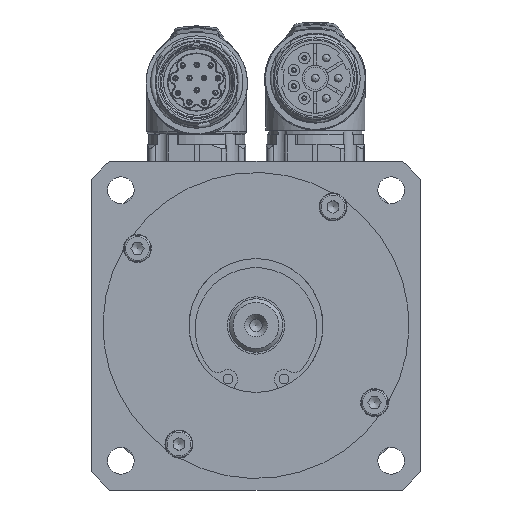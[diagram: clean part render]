
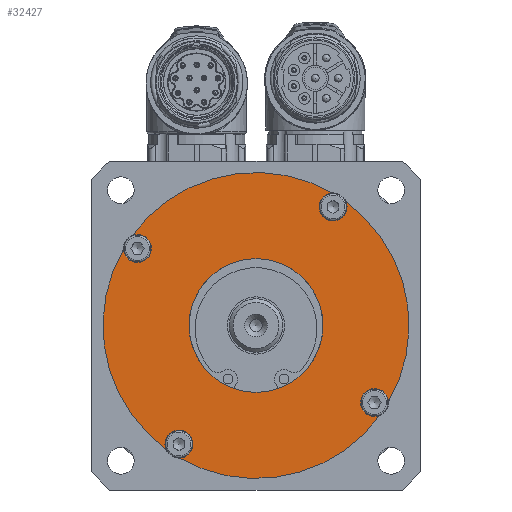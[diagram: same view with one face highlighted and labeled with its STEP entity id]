
A CAD part, left-side view. The second image highlights one B-rep face of the part: STEP entity #32427.
In plain terms, the highlighted planar face has unit normal (-1, 0, 0).
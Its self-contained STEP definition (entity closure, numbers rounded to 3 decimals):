
#1485=FACE_BOUND('',#4180,.T.);
#1701=PLANE('',#34668);
#2269=FACE_OUTER_BOUND('',#4179,.T.);
#4179=EDGE_LOOP('',(#20310,#20311,#20312,#20313,#20314,#20315,#20316,#20317));
#4180=EDGE_LOOP('',(#20318));
#6460=CIRCLE('',#34573,17.5);
#6491=CIRCLE('',#34615,3.65);
#6499=CIRCLE('',#34626,3.65);
#6507=CIRCLE('',#34637,3.65);
#6515=CIRCLE('',#34648,3.65);
#6524=CIRCLE('',#34666,40.);
#6526=CIRCLE('',#34669,40.);
#6527=CIRCLE('',#34670,40.);
#6528=CIRCLE('',#34671,40.);
#12027=VERTEX_POINT('',#48582);
#12061=VERTEX_POINT('',#48676);
#12062=VERTEX_POINT('',#48677);
#12071=VERTEX_POINT('',#48703);
#12072=VERTEX_POINT('',#48704);
#12081=VERTEX_POINT('',#48730);
#12082=VERTEX_POINT('',#48731);
#12091=VERTEX_POINT('',#48757);
#12092=VERTEX_POINT('',#48758);
#15189=EDGE_CURVE('',#12027,#12027,#6460,.T.);
#15237=EDGE_CURVE('',#12061,#12062,#6491,.T.);
#15251=EDGE_CURVE('',#12071,#12072,#6499,.T.);
#15265=EDGE_CURVE('',#12081,#12082,#6507,.T.);
#15279=EDGE_CURVE('',#12091,#12092,#6515,.T.);
#15300=EDGE_CURVE('',#12061,#12092,#6524,.T.);
#15302=EDGE_CURVE('',#12091,#12082,#6526,.T.);
#15303=EDGE_CURVE('',#12081,#12072,#6527,.T.);
#15304=EDGE_CURVE('',#12071,#12062,#6528,.T.);
#20310=ORIENTED_EDGE('',*,*,#15279,.F.);
#20311=ORIENTED_EDGE('',*,*,#15302,.T.);
#20312=ORIENTED_EDGE('',*,*,#15265,.F.);
#20313=ORIENTED_EDGE('',*,*,#15303,.T.);
#20314=ORIENTED_EDGE('',*,*,#15251,.F.);
#20315=ORIENTED_EDGE('',*,*,#15304,.T.);
#20316=ORIENTED_EDGE('',*,*,#15237,.F.);
#20317=ORIENTED_EDGE('',*,*,#15300,.T.);
#20318=ORIENTED_EDGE('',*,*,#15189,.F.);
#32427=ADVANCED_FACE('',(#2269,#1485),#1701,.F.);
#34573=AXIS2_PLACEMENT_3D('',#48584,#38783,#38784);
#34615=AXIS2_PLACEMENT_3D('',#48678,#38884,#38885);
#34626=AXIS2_PLACEMENT_3D('',#48705,#38912,#38913);
#34637=AXIS2_PLACEMENT_3D('',#48732,#38940,#38941);
#34648=AXIS2_PLACEMENT_3D('',#48759,#38968,#38969);
#34666=AXIS2_PLACEMENT_3D('',#48799,#39016,#39017);
#34668=AXIS2_PLACEMENT_3D('',#48801,#39020,#39021);
#34669=AXIS2_PLACEMENT_3D('',#48802,#39022,#39023);
#34670=AXIS2_PLACEMENT_3D('',#48803,#39024,#39025);
#34671=AXIS2_PLACEMENT_3D('',#48804,#39026,#39027);
#38783=DIRECTION('center_axis',(-1.,0.,0.));
#38784=DIRECTION('ref_axis',(0.,0.,
1.));
#38884=DIRECTION('center_axis',(-1.,0.,0.));
#38885=DIRECTION('ref_axis',(0.,-1.,0.));
#38912=DIRECTION('center_axis',(-1.,0.,0.));
#38913=DIRECTION('ref_axis',(0.,0.,
-1.));
#38940=DIRECTION('center_axis',(-1.,0.,0.));
#38941=DIRECTION('ref_axis',(0.,1.,0.));
#38968=DIRECTION('center_axis',(-1.,0.,0.));
#38969=DIRECTION('ref_axis',(0.,0.,1.));
#39016=DIRECTION('center_axis',(-1.,0.,0.));
#39017=DIRECTION('ref_axis',(0.,0.,
1.));
#39020=DIRECTION('center_axis',(1.,0.,0.));
#39021=DIRECTION('ref_axis',(0.,0.,
-1.));
#39022=DIRECTION('center_axis',(-1.,0.,0.));
#39023=DIRECTION('ref_axis',(0.,0.,
1.));
#39024=DIRECTION('center_axis',(-1.,0.,0.));
#39025=DIRECTION('ref_axis',(0.,0.,
1.));
#39026=DIRECTION('center_axis',(-1.,0.,0.));
#39027=DIRECTION('ref_axis',(0.,0.,
1.));
#48582=CARTESIAN_POINT('',(-28.25,0.,-17.5));
#48584=CARTESIAN_POINT('Origin',(-28.25,0.,0.));
#48676=CARTESIAN_POINT('',(-28.25,34.647,19.99));
#48677=CARTESIAN_POINT('',(-28.25,32.335,23.547));
#48678=CARTESIAN_POINT('Origin',(-28.25,31.,20.15));
#48703=CARTESIAN_POINT('',(-28.25,-19.99,34.647));
#48704=CARTESIAN_POINT('',(-28.25,-23.547,32.335));
#48705=CARTESIAN_POINT('Origin',(-28.25,-20.15,31.));
#48730=CARTESIAN_POINT('',(-28.25,-34.647,-19.99));
#48731=CARTESIAN_POINT('',(-28.25,-32.335,-23.547));
#48732=CARTESIAN_POINT('Origin',(-28.25,-31.,-20.15));
#48757=CARTESIAN_POINT('',(-28.25,19.99,-34.647));
#48758=CARTESIAN_POINT('',(-28.25,23.547,-32.335));
#48759=CARTESIAN_POINT('Origin',(-28.25,20.15,-31.));
#48799=CARTESIAN_POINT('Origin',(-28.25,0.,0.));
#48801=CARTESIAN_POINT('Origin',(-28.25,0.,40.));
#48802=CARTESIAN_POINT('Origin',(-28.25,0.,0.));
#48803=CARTESIAN_POINT('Origin',(-28.25,0.,0.));
#48804=CARTESIAN_POINT('Origin',(-28.25,0.,0.));
